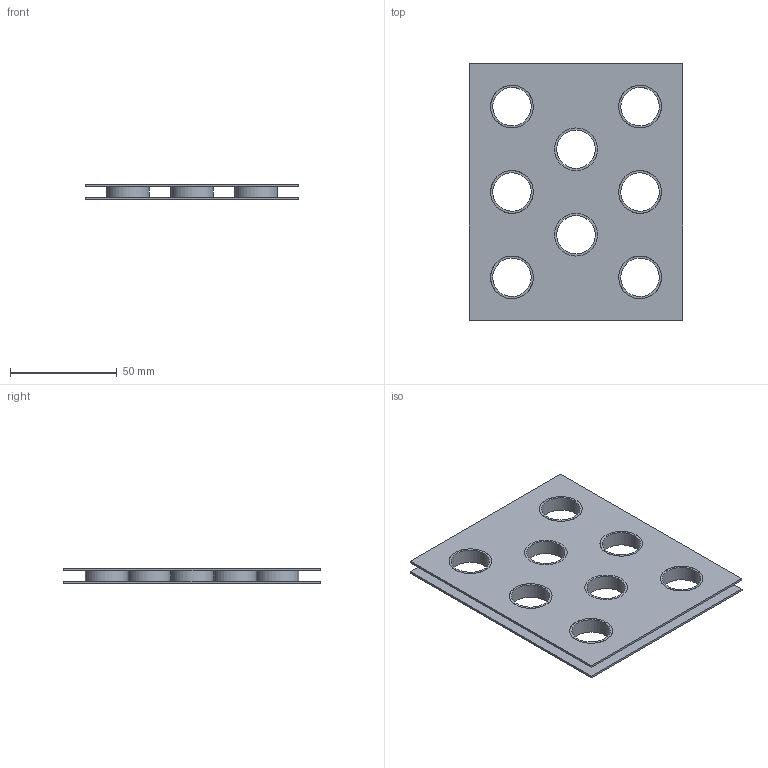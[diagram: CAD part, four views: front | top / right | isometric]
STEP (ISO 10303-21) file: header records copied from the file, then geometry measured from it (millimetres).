
FILE_DESCRIPTION(/* description */ (''),/* implementation_level */ '2;1');
FILE_NAME(/* name */ 'D:\Qsy\dydaktyka\modelowanie_matematyczne\kartyPrzedmiotu\nagrzewnica\cad\Assembly4.stp',/* time_stamp */ '2020-12-16T05:51:47+01:00',/* author */ ('Jozef'),/* organization */ (''),/* preprocessor_version */ 'ST-DEVELOPER v18',/* originating_system */ 'Autodesk Inventor 2020',/* authorisation */ '');
FILE_SCHEMA (('AUTOMOTIVE_DESIGN { 1 0 10303 214 3 1 1 }'));
Length unit declared in the file: millimetre
Products named in the file (3): Assembly2; rurka; lamel
Assembly tree (10 placements, depth 2):
  Assembly2
    lamel  x2
    rurka  x8
Bounding box: 100 x 120 x 7 mm (x, y, z)
Volume: 22316.1 mm3; surface area: 47472.6 mm2
Topology: 10 solids, 10 shells, 60 faces, 144 edges, 104 vertices
Faces by surface type: cylinder 32, plane 28
Full cylindrical faces by diameter (mm): 18 x8, 20 x24
Entity records: 761 total; most frequent: DIRECTION 130, CARTESIAN_POINT 107, ORIENTED_EDGE 90, AXIS2_PLACEMENT_3D 54, EDGE_CURVE 45, EDGE_LOOP 36, VERTEX_POINT 31, CIRCLE 23
